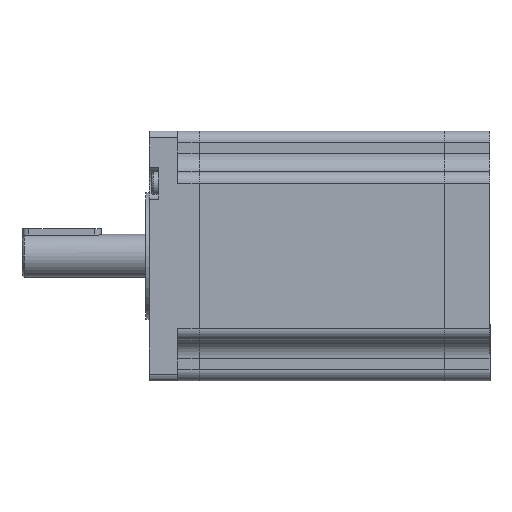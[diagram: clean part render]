
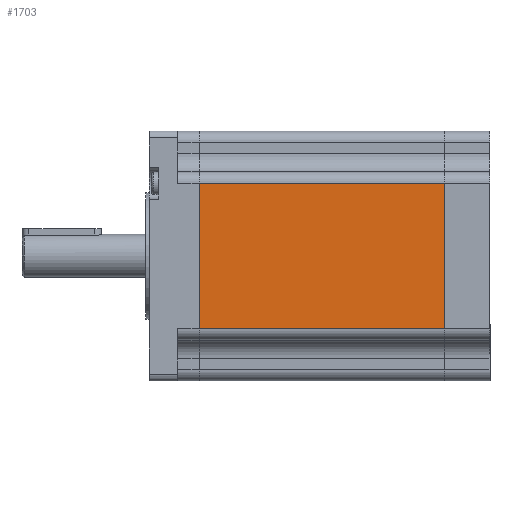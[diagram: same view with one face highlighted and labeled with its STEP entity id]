
A CAD part, front view. The second image highlights one B-rep face of the part: STEP entity #1703.
In plain terms, the highlighted planar face has unit normal (0, -1, 0).
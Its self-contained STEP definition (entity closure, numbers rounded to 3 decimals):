
#408 = LINE ( 'NONE', #5265, #7944 ) ;
#563 = ORIENTED_EDGE ( 'NONE', *, *, #4160, .T. ) ;
#680 = LINE ( 'NONE', #1232, #3230 ) ;
#807 = ORIENTED_EDGE ( 'NONE', *, *, #5092, .F. ) ;
#815 = VECTOR ( 'NONE', #8608, 1000. ) ;
#862 = DIRECTION ( 'NONE',  ( 0., -1., 0. ) ) ;
#1216 = VERTEX_POINT ( 'NONE', #8725 ) ;
#1232 = CARTESIAN_POINT ( 'NONE',  ( 32., -55., 0. ) ) ;
#1669 = VECTOR ( 'NONE', #6894, 1000. ) ;
#1703 = ADVANCED_FACE ( 'NONE', ( #5431 ), #9411, .T. ) ;
#1729 = ORIENTED_EDGE ( 'NONE', *, *, #5545, .F. ) ;
#2054 = VERTEX_POINT ( 'NONE', #8647 ) ;
#2927 = AXIS2_PLACEMENT_3D ( 'NONE', #5450, #862, #3987 ) ;
#3173 = EDGE_CURVE ( 'NONE', #2054, #5507, #9241, .T. ) ;
#3230 = VECTOR ( 'NONE', #8151, 1000. ) ;
#3388 = LINE ( 'NONE', #3902, #1669 ) ;
#3902 = CARTESIAN_POINT ( 'NONE',  ( 32., -55., 108. ) ) ;
#3987 = DIRECTION ( 'NONE',  ( 0., 0., -1. ) ) ;
#4160 = EDGE_CURVE ( 'NONE', #1216, #2054, #408, .T. ) ;
#5092 = EDGE_CURVE ( 'NONE', #5871, #5507, #680, .T. ) ;
#5265 = CARTESIAN_POINT ( 'NONE',  ( 32., -55., 108. ) ) ;
#5431 = FACE_OUTER_BOUND ( 'NONE', #6183, .T. ) ;
#5450 = CARTESIAN_POINT ( 'NONE',  ( 32., -55., 108. ) ) ;
#5507 = VERTEX_POINT ( 'NONE', #7660 ) ;
#5545 = EDGE_CURVE ( 'NONE', #1216, #5871, #3388, .T. ) ;
#5871 = VERTEX_POINT ( 'NONE', #6148 ) ;
#6148 = CARTESIAN_POINT ( 'NONE',  ( 32., -55., 0. ) ) ;
#6183 = EDGE_LOOP ( 'NONE', ( #807, #1729, #563, #10133 ) ) ;
#6304 = CARTESIAN_POINT ( 'NONE',  ( -32., -55., 108. ) ) ;
#6894 = DIRECTION ( 'NONE',  ( 0., 0., -1. ) ) ;
#7660 = CARTESIAN_POINT ( 'NONE',  ( -32., -55., 0. ) ) ;
#7944 = VECTOR ( 'NONE', #9231, 1000. ) ;
#8151 = DIRECTION ( 'NONE',  ( -1., 0., 0. ) ) ;
#8608 = DIRECTION ( 'NONE',  ( 0., 0., -1. ) ) ;
#8647 = CARTESIAN_POINT ( 'NONE',  ( -32., -55., 108. ) ) ;
#8725 = CARTESIAN_POINT ( 'NONE',  ( 32., -55., 108. ) ) ;
#9231 = DIRECTION ( 'NONE',  ( -1., 0., 0. ) ) ;
#9241 = LINE ( 'NONE', #6304, #815 ) ;
#9411 = PLANE ( 'NONE',  #2927 ) ;
#10133 = ORIENTED_EDGE ( 'NONE', *, *, #3173, .T. ) ;
